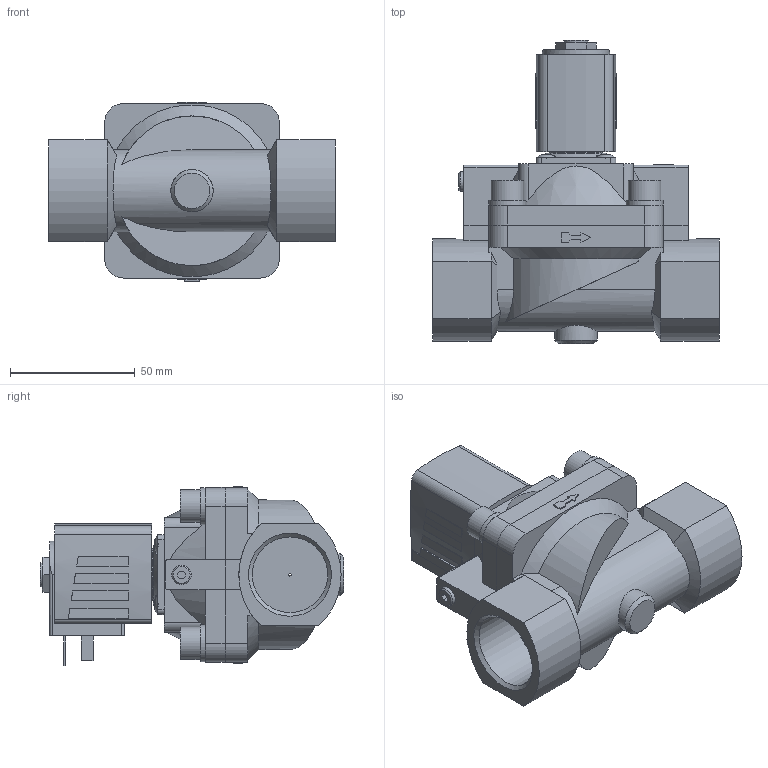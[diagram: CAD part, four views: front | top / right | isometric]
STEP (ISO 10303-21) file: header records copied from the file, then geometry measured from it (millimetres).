
FILE_DESCRIPTION(/* description */ ('STEP AP214'),/* implementation_level */ '2;1');
FILE_NAME(/* name */ '5404-351349-Servo-assisted_2_2_way_piston_valve',/* time_stamp */ '2024-02-29T11:46:18+01:00',/* author */ ('License CC BY-ND 4.0'),/* organization */ ('CADENAS'),/* preprocessor_version */ 'ST-DEVELOPER v19.3',/* originating_system */ 'PARTsolutions',/* authorisation */ ' ');
FILE_SCHEMA (('AUTOMOTIVE_DESIGN {1 0 10303 214 3 1 1}'));
Length unit declared in the file: millimetre
Products named in the file (4): 5404-351349-Servo-assisted 2/2 way piston valve; 5282g-8625MS000-2/2-Wege-Magnetventil_Gehaeuse; 5282d-25MSAU3J-2/2-Wege-Magnetventil_Deckel; AC10ex-5NA38-Plan-Coil
Assembly tree (3 placements, depth 2):
  5404-351349-Servo-assisted 2/2 way piston valve
    5282g-8625MS000-2/2-Wege-Magnetventil_Gehaeuse
    5282d-25MSAU3J-2/2-Wege-Magnetventil_Deckel
    AC10ex-5NA38-Plan-Coil
Bounding box: 115 x 121.6 x 72 mm (x, y, z)
Volume: 320466.5 mm3; surface area: 58761.2 mm2
Topology: 3 solids, 3 shells, 301 faces, 742 edges, 489 vertices
Faces by surface type: plane 197, cylinder 77, cone 22, torus 5
Full cylindrical faces by diameter (mm): 1 x1, 2.013 x1, 4 x4, 7.5 x4, 7.6 x4, 7.8 x1, 9.74 x1, 13 x4, 14.8 x4, 17 x1, 21 x1, 30.291 x2
Entity records: 9490 total; most frequent: CARTESIAN_POINT 1739, DIRECTION 1444, ORIENTED_EDGE 1384, EDGE_CURVE 692, AXIS2_PLACEMENT_3D 502, VERTEX_POINT 478, LINE 440, VECTOR 440
